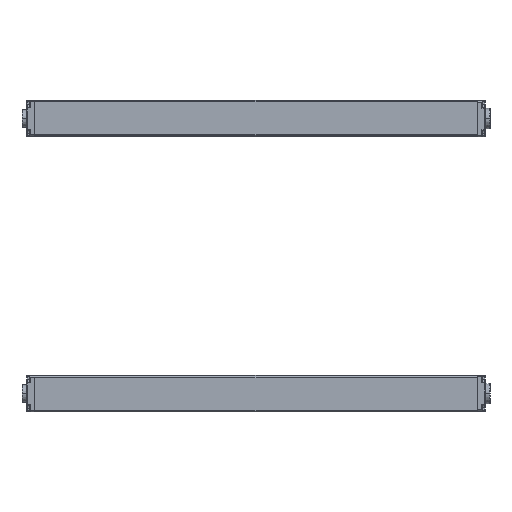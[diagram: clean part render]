
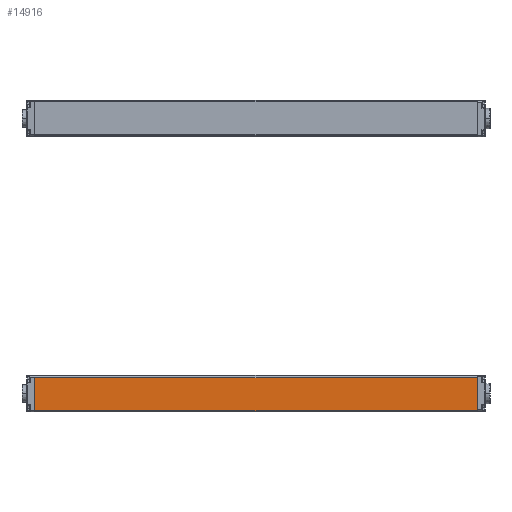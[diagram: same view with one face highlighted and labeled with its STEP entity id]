
A CAD part, left-side view. The second image highlights one B-rep face of the part: STEP entity #14916.
In plain terms, the highlighted planar face has unit normal (-1, 0, -0.009) as drawn and (1, 0, 0) by its records, which use the part's own axes.
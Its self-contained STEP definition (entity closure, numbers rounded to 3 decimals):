
#242 = CARTESIAN_POINT ( 'NONE',  ( 15., 370., -16.9 ) ) ;
#662 = EDGE_LOOP ( 'NONE', ( #3509, #5554, #4058, #11876 ) ) ;
#2559 = CARTESIAN_POINT ( 'NONE',  ( 15., 370., -16.9 ) ) ;
#3300 = LINE ( 'NONE', #8836, #12958 ) ;
#3338 = EDGE_CURVE ( 'NONE', #14579, #11821, #15042, .T. ) ;
#3509 = ORIENTED_EDGE ( 'NONE', *, *, #15506, .T. ) ;
#4058 = ORIENTED_EDGE ( 'NONE', *, *, #3338, .F. ) ;
#4072 = CARTESIAN_POINT ( 'NONE',  ( 15., 0., -16.693 ) ) ;
#4301 = VECTOR ( 'NONE', #10927, 1000. ) ;
#4629 = AXIS2_PLACEMENT_3D ( 'NONE', #242, #5789, #11360 ) ;
#5360 = CARTESIAN_POINT ( 'NONE',  ( 15., 370., 10.9 ) ) ;
#5554 = ORIENTED_EDGE ( 'NONE', *, *, #11225, .T. ) ;
#5789 = DIRECTION ( 'NONE',  ( -1., 0., 0. ) ) ;
#5950 = LINE ( 'NONE', #11525, #13954 ) ;
#7152 = FACE_OUTER_BOUND ( 'NONE', #662, .T. ) ;
#8106 = DIRECTION ( 'NONE',  ( 0., 0., -1. ) ) ;
#8359 = VERTEX_POINT ( 'NONE', #8917 ) ;
#8836 = CARTESIAN_POINT ( 'NONE',  ( 15., 370., -16.693 ) ) ;
#8917 = CARTESIAN_POINT ( 'NONE',  ( 15., 0., 10.9 ) ) ;
#9072 = VERTEX_POINT ( 'NONE', #4072 ) ;
#10927 = DIRECTION ( 'NONE',  ( 0., -1., 0. ) ) ;
#11225 = EDGE_CURVE ( 'NONE', #9072, #11821, #3300, .T. ) ;
#11360 = DIRECTION ( 'NONE',  ( 0., 0., 1. ) ) ;
#11525 = CARTESIAN_POINT ( 'NONE',  ( 15., 0., -16.9 ) ) ;
#11821 = VERTEX_POINT ( 'NONE', #13197 ) ;
#11876 = ORIENTED_EDGE ( 'NONE', *, *, #13652, .T. ) ;
#12710 = PLANE ( 'NONE',  #4629 ) ;
#12958 = VECTOR ( 'NONE', #14416, 1000. ) ;
#13197 = CARTESIAN_POINT ( 'NONE',  ( 15., 370., -16.693 ) ) ;
#13245 = VECTOR ( 'NONE', #8106, 1000. ) ;
#13652 = EDGE_CURVE ( 'NONE', #14579, #8359, #17834, .T. ) ;
#13954 = VECTOR ( 'NONE', #17065, 1000. ) ;
#14416 = DIRECTION ( 'NONE',  ( 0., 1., 0. ) ) ;
#14579 = VERTEX_POINT ( 'NONE', #17189 ) ;
#14916 = ADVANCED_FACE ( 'NONE', ( #7152 ), #12710, .F. ) ;
#15042 = LINE ( 'NONE', #2559, #13245 ) ;
#15506 = EDGE_CURVE ( 'NONE', #8359, #9072, #5950, .T. ) ;
#17065 = DIRECTION ( 'NONE',  ( 0., 0., -1. ) ) ;
#17189 = CARTESIAN_POINT ( 'NONE',  ( 15., 370., 10.9 ) ) ;
#17834 = LINE ( 'NONE', #5360, #4301 ) ;
